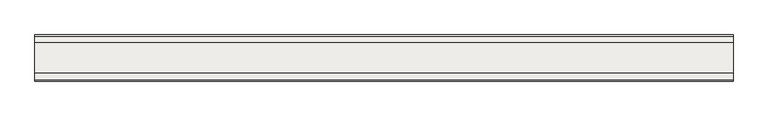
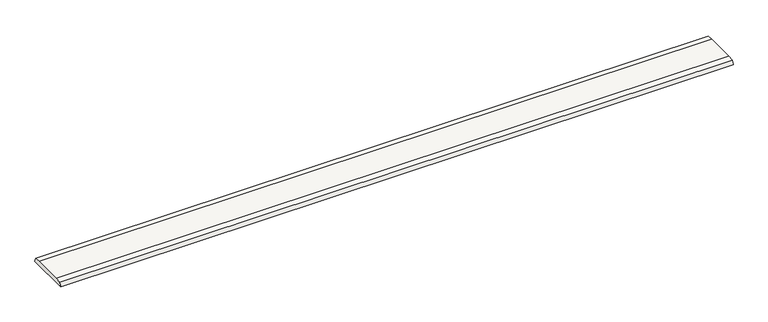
"""IFC4 building model written with IfcOpenShell, lengths in millimetres: slab geometry, ROSA GRES_245 CM_Colocación en plano : Rejilla 245 CM_Mistery_Grey_Anti-Slip."""

from ifc_helpers import new_model, si_unit, point, frame, frame_2d, origin, place, context, project, spatial, polyline, circle_curve, trimmed, segment, composite_curve, outline, extrude, source, transform, mapped, element, save


def slab_f63c1f75(model_context):
    return source(origin(), model_context, "Body", "SweptSolid", [
        extrude(outline(composite_curve([segment(trimmed(circle_curve(frame_2d((-163.0982439, -720.2412375)), 721.556477), [point((-242.0848264, -3.0209998))], [point((-206.6448784, 0.0))], False, "CARTESIAN"), True, "CONTINUOUS"), segment(polyline([(-206.6448784, 0.0), (-42.7380732, 0.0)]), True, "CONTINUOUS"), segment(trimmed(circle_curve(frame_2d((-86.2847076, -720.2412375)), 721.556477), [point((-42.7380732, 0.0))], [point((-6.8503894, -3.0704499))], False, "CARTESIAN"), True, "CONTINUOUS"), segment(polyline([(-6.8503894, -3.0704499), (0.0, -25.0413492), (-248.9615625, -25.0413492), (-242.0848264, -3.0209998)]), True, "CONTINUOUS")], self_intersect=False)), frame((0.0, 0.0, 0.0), z_axis=(1.0, 0.0, 0.0), x_axis=(0.0, 1.0, 0.0)), (0.0, 0.0, 1.0), 3770.0),
    ])


if __name__ == "__main__":
    model = new_model("IFC4")
    model_context = context("Model", 3, world=origin())
    ifc_project = project(units=[si_unit("LENGTHUNIT", "METRE", prefix="MILLI")], contexts=[model_context])
    site = spatial("IfcSite", under=ifc_project)
    building = spatial("IfcBuilding", under=site)
    placement = place(None, origin())
    slab_shape = slab_f63c1f75(model_context)
    element("IfcSlab", 1, ObjectType="ROSA GRES_245 CM_Colocación en plano : Rejilla 245 CM_Mistery_Grey_Anti-Slip", at=placement, inside=building, context=model_context, shape_type="MappedRepresentation", body=[
        mapped(slab_shape, transform((0.0, 0.0, 0.0), x_axis=(1.0, 0.0, 0.0), y_axis=(0.0, 1.0, 0.0), z_axis=(0.0, 0.0, 1.0))),
    ])
    save(model, "model.ifc")
